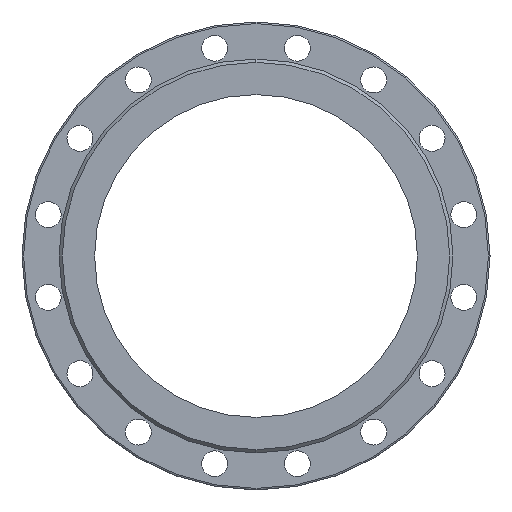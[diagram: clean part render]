
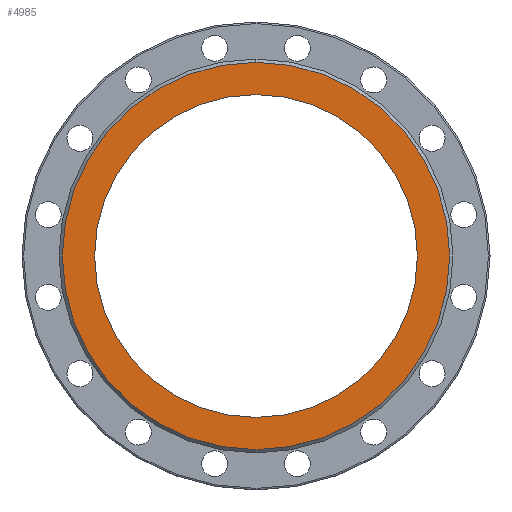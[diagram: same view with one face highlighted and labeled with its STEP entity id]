
A CAD part, left-side view. The second image highlights one B-rep face of the part: STEP entity #4985.
In plain terms, the highlighted planar face has unit normal (-1, 0, 0).
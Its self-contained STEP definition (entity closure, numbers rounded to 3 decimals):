
#68 = EDGE_CURVE ( 'Defeatured_0_2+Defeatured_0_3+Defeatured_0_3+Defeatured_0_3', #3064, #4564, #3504, .T. ) ;
#465 = DIRECTION ( 'NONE',  ( 0., 0., 1. ) ) ;
#592 = DIRECTION ( 'NONE',  ( 0., 0., 1. ) ) ;
#648 = CARTESIAN_POINT ( 'NONE',  ( -350., 200., 0. ) ) ;
#672 = CIRCLE ( 'NONE', #3793, 240. ) ;
#683 = AXIS2_PLACEMENT_3D ( 'NONE', #1239, #2942, #465 ) ;
#709 = DIRECTION ( 'NONE',  ( 0., 0., -1. ) ) ;
#1001 = CARTESIAN_POINT ( 'NONE',  ( -350., 0., 240. ) ) ;
#1025 = EDGE_CURVE ( 'Defeatured_0_3+Defeatured_0_4+Defeatured_0_4+Defeatured_0_4', #3576, #5501, #672, .T. ) ;
#1123 = FACE_OUTER_BOUND ( 'NONE', #3964, .T. ) ;
#1239 = CARTESIAN_POINT ( 'NONE',  ( -350., 0., 0. ) ) ;
#1307 = DIRECTION ( 'NONE',  ( 0., 0., 1. ) ) ;
#1654 = ORIENTED_EDGE ( 'NONE', *, *, #1025, .T. ) ;
#1720 = EDGE_CURVE ( 'Defeatured_0_3+Defeatured_0_4+Defeatured_0_4+Defeatured_0_4', #5501, #3576, #1835, .T. ) ;
#1807 = EDGE_CURVE ( 'Defeatured_0_2+Defeatured_0_3+Defeatured_0_3+Defeatured_0_3', #4564, #3064, #2555, .T. ) ;
#1835 = CIRCLE ( 'NONE', #3086, 240. ) ;
#2057 = PLANE ( 'NONE',  #3913 ) ;
#2199 = DIRECTION ( 'NONE',  ( -1., 0., 0. ) ) ;
#2263 = AXIS2_PLACEMENT_3D ( 'NONE', #3060, #2199, #1307 ) ;
#2390 = CARTESIAN_POINT ( 'NONE',  ( -350., 0., 200. ) ) ;
#2499 = ORIENTED_EDGE ( 'NONE', *, *, #68, .F. ) ;
#2555 = CIRCLE ( 'NONE', #683, 200. ) ;
#2655 = EDGE_LOOP ( 'NONE', ( #5469, #2499 ) ) ;
#2795 = ORIENTED_EDGE ( 'NONE', *, *, #1720, .T. ) ;
#2942 = DIRECTION ( 'NONE',  ( -1., 0., 0. ) ) ;
#3060 = CARTESIAN_POINT ( 'NONE',  ( -350., 0., 0. ) ) ;
#3064 = VERTEX_POINT ( 'NONE', #4364 ) ;
#3086 = AXIS2_PLACEMENT_3D ( 'NONE', #3334, #4587, #5031 ) ;
#3128 = DIRECTION ( 'NONE',  ( -1., 0., 0. ) ) ;
#3334 = CARTESIAN_POINT ( 'NONE',  ( -350., 0., 0. ) ) ;
#3504 = CIRCLE ( 'NONE', #2263, 200. ) ;
#3576 = VERTEX_POINT ( 'NONE', #1001 ) ;
#3749 = DIRECTION ( 'NONE',  ( 1., 0., 0. ) ) ;
#3793 = AXIS2_PLACEMENT_3D ( 'NONE', #4017, #3128, #592 ) ;
#3913 = AXIS2_PLACEMENT_3D ( 'NONE', #648, #3749, #709 ) ;
#3964 = EDGE_LOOP ( 'NONE', ( #2795, #1654 ) ) ;
#4017 = CARTESIAN_POINT ( 'NONE',  ( -350., 0., 0. ) ) ;
#4364 = CARTESIAN_POINT ( 'NONE',  ( -350., 0., -200. ) ) ;
#4387 = CARTESIAN_POINT ( 'NONE',  ( -350., 0., -240. ) ) ;
#4531 = FACE_BOUND ( 'NONE', #2655, .T. ) ;
#4564 = VERTEX_POINT ( 'NONE', #2390 ) ;
#4587 = DIRECTION ( 'NONE',  ( -1., 0., 0. ) ) ;
#4985 = ADVANCED_FACE ( 'Defeatured_0_3', ( #4531, #1123 ), #2057, .F. ) ;
#5031 = DIRECTION ( 'NONE',  ( 0., 0., 1. ) ) ;
#5469 = ORIENTED_EDGE ( 'NONE', *, *, #1807, .F. ) ;
#5501 = VERTEX_POINT ( 'NONE', #4387 ) ;
